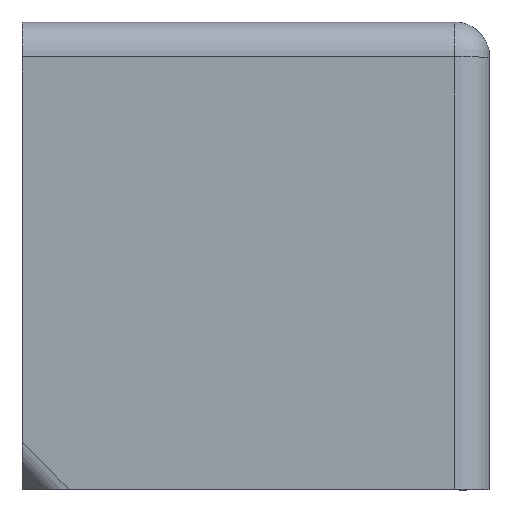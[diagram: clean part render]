
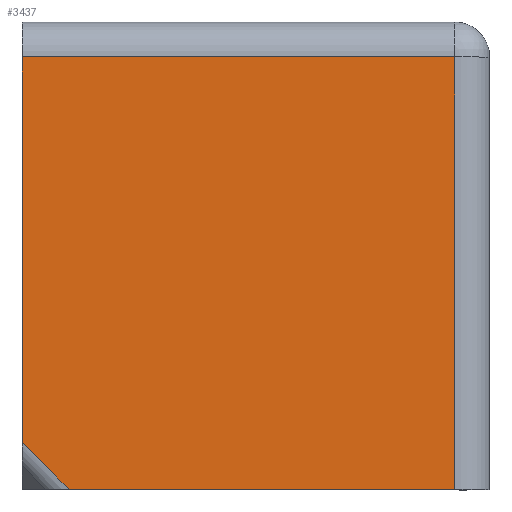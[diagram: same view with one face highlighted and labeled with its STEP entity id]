
A CAD part, top view. The second image highlights one B-rep face of the part: STEP entity #3437.
In plain terms, the highlighted planar face has unit normal (0, 0, 1).
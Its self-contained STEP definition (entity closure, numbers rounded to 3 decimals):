
#37 = FACE_OUTER_BOUND ( 'NONE', #2189, .T. ) ;
#52 = CARTESIAN_POINT ( 'NONE',  ( 0., 18.5, 0. ) ) ;
#136 = LINE ( 'NONE', #4027, #2996 ) ;
#137 = AXIS2_PLACEMENT_3D ( 'NONE', #232, #1307, #5065 ) ;
#232 = CARTESIAN_POINT ( 'NONE',  ( 0., 0., 0. ) ) ;
#310 = EDGE_CURVE ( 'NONE', #5430, #6588, #4852, .T. ) ;
#510 = VERTEX_POINT ( 'NONE', #4025 ) ;
#542 = EDGE_CURVE ( 'NONE', #6588, #510, #6361, .T. ) ;
#638 = EDGE_CURVE ( 'NONE', #510, #4719, #136, .T. ) ;
#802 = DIRECTION ( 'NONE',  ( 0., 1., 0. ) ) ;
#1307 = DIRECTION ( 'NONE',  ( 0., 0., 1. ) ) ;
#1513 = ORIENTED_EDGE ( 'NONE', *, *, #310, .T. ) ;
#1531 = ORIENTED_EDGE ( 'NONE', *, *, #542, .T. ) ;
#1833 = ORIENTED_EDGE ( 'NONE', *, *, #2908, .T. ) ;
#2003 = VECTOR ( 'NONE', #4507, 1000. ) ;
#2189 = EDGE_LOOP ( 'NONE', ( #1513, #1531, #6434, #1833, #6527 ) ) ;
#2387 = LINE ( 'NONE', #52, #6488 ) ;
#2542 = DIRECTION ( 'NONE',  ( 0.707, -0.707, 0. ) ) ;
#2723 = DIRECTION ( 'NONE',  ( -1., 0., 0. ) ) ;
#2908 = EDGE_CURVE ( 'NONE', #4719, #6757, #6232, .T. ) ;
#2985 = CARTESIAN_POINT ( 'NONE',  ( -1.5, 0., 0. ) ) ;
#2996 = VECTOR ( 'NONE', #5600, 1000. ) ;
#3312 = CARTESIAN_POINT ( 'NONE',  ( -20., 2., 0. ) ) ;
#3437 = ADVANCED_FACE ( 'NONE', ( #37 ), #4532, .T. ) ;
#3506 = VECTOR ( 'NONE', #2542, 1000. ) ;
#4025 = CARTESIAN_POINT ( 'NONE',  ( -18., 0., 0. ) ) ;
#4027 = CARTESIAN_POINT ( 'NONE',  ( 0., 0., 0. ) ) ;
#4197 = CARTESIAN_POINT ( 'NONE',  ( -20., 18.5, 0. ) ) ;
#4507 = DIRECTION ( 'NONE',  ( 0., -1., 0. ) ) ;
#4532 = PLANE ( 'NONE',  #137 ) ;
#4719 = VERTEX_POINT ( 'NONE', #2985 ) ;
#4852 = LINE ( 'NONE', #5493, #2003 ) ;
#5065 = DIRECTION ( 'NONE',  ( 1., 0., 0. ) ) ;
#5072 = CARTESIAN_POINT ( 'NONE',  ( -1.5, 0., 0. ) ) ;
#5430 = VERTEX_POINT ( 'NONE', #4197 ) ;
#5493 = CARTESIAN_POINT ( 'NONE',  ( -20., 0., 0. ) ) ;
#5583 = CARTESIAN_POINT ( 'NONE',  ( -1.5, 18.5, 0. ) ) ;
#5600 = DIRECTION ( 'NONE',  ( 1., 0., 0. ) ) ;
#5648 = EDGE_CURVE ( 'NONE', #6757, #5430, #2387, .T. ) ;
#5893 = VECTOR ( 'NONE', #802, 1000. ) ;
#6232 = LINE ( 'NONE', #5072, #5893 ) ;
#6361 = LINE ( 'NONE', #6568, #3506 ) ;
#6434 = ORIENTED_EDGE ( 'NONE', *, *, #638, .T. ) ;
#6488 = VECTOR ( 'NONE', #2723, 1000. ) ;
#6527 = ORIENTED_EDGE ( 'NONE', *, *, #5648, .T. ) ;
#6568 = CARTESIAN_POINT ( 'NONE',  ( -18.293, 0.293, 0. ) ) ;
#6588 = VERTEX_POINT ( 'NONE', #3312 ) ;
#6757 = VERTEX_POINT ( 'NONE', #5583 ) ;
